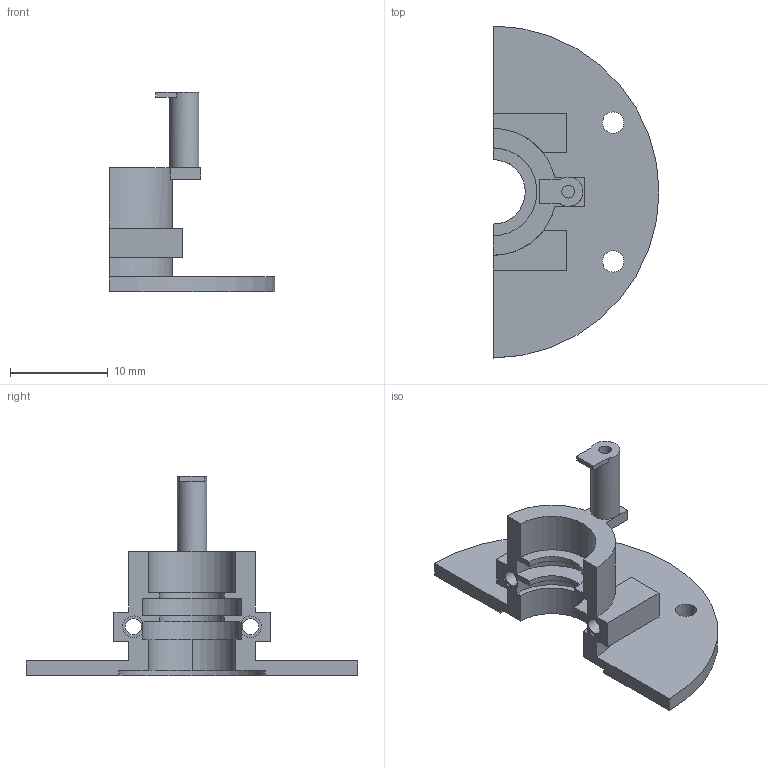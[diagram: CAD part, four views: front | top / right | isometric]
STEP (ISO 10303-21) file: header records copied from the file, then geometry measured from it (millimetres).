
FILE_DESCRIPTION(('Open CASCADE Model'),'2;1');
FILE_NAME('Open CASCADE Shape Model','2026-09-24T17:43:00',('Author'),( 'Open CASCADE'),'Open CASCADE STEP processor 7.8','Open CASCADE 7.8' ,'Unknown');
FILE_SCHEMA(('AUTOMOTIVE_DESIGN { 1 0 10303 214 1 1 1 1 }'));
Length unit declared in the file: millimetre
Products named in the file (1): Open CASCADE STEP translator 7.8 2
Bounding box: 17 x 34 x 20.39 mm (x, y, z)
Volume: 1115.7 mm3; surface area: 1868.6 mm2
Topology: 1 solids, 1 shells, 52 faces, 145 edges, 96 vertices
Faces by surface type: plane 34, cylinder 18
Full cylindrical faces by diameter (mm): 1.3 x1, 1.66 x2, 2.2 x2, 3 x1
Entity records: 3735 total; most frequent: CARTESIAN_POINT 838, DIRECTION 536, LINE 299, VECTOR 299, ORIENTED_EDGE 290, PCURVE 290, DEFINITIONAL_REPRESENTATION 290, EDGE_CURVE 145
